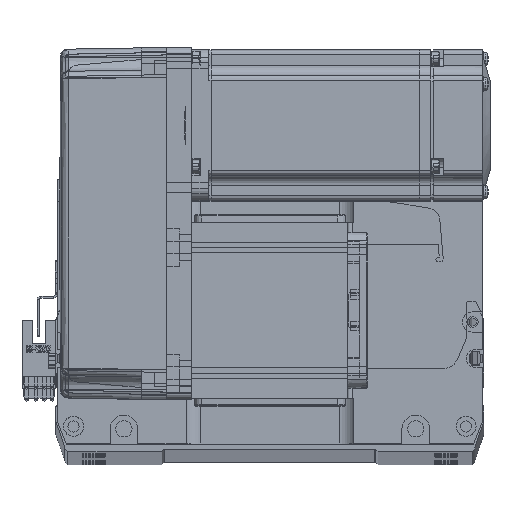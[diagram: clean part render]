
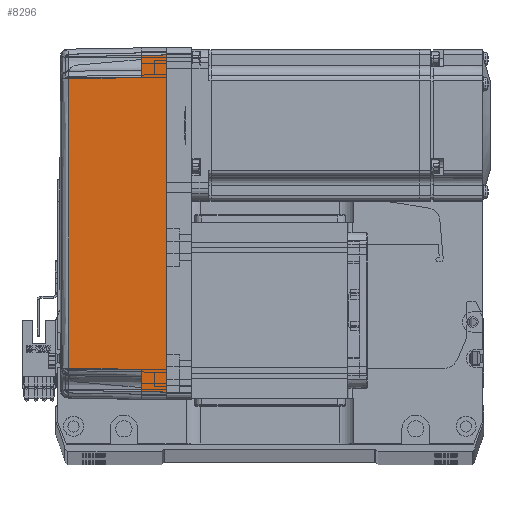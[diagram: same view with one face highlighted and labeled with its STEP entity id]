
A CAD part, top view. The second image highlights one B-rep face of the part: STEP entity #8296.
In plain terms, the highlighted planar face has unit normal (-0.018, 0, 1) as drawn and (0, 1, 0.017) by its records, which use the part's own axes.
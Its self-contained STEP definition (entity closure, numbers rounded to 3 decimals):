
#353 = VECTOR ( 'NONE', #52346, 1000. ) ;
#1189 = VERTEX_POINT ( 'NONE', #12398 ) ;
#3308 = CARTESIAN_POINT ( 'NONE',  ( 67.001, 36.001, -0.052 ) ) ;
#5207 = VERTEX_POINT ( 'NONE', #33978 ) ;
#6202 = LINE ( 'NONE', #37727, #58436 ) ;
#7129 = EDGE_CURVE ( 'NONE', #37167, #44892, #52648, .T. ) ;
#8168 = ORIENTED_EDGE ( 'NONE', *, *, #42075, .T. ) ;
#8296 = ADVANCED_FACE ( 'NONE', ( #18148 ), #31803, .T. ) ;
#11177 = VECTOR ( 'NONE', #70961, 1000. ) ;
#12398 = CARTESIAN_POINT ( 'NONE',  ( -57.495, 35.32, 38.985 ) ) ;
#13283 = VERTEX_POINT ( 'NONE', #52552 ) ;
#13899 = LINE ( 'NONE', #52537, #45568 ) ;
#14903 = ORIENTED_EDGE ( 'NONE', *, *, #34481, .T. ) ;
#15688 = DIRECTION ( 'NONE',  ( 1., 0., 0. ) ) ;
#17793 = EDGE_CURVE ( 'NONE', #30287, #44892, #40867, .T. ) ;
#18148 = FACE_OUTER_BOUND ( 'NONE', #58489, .T. ) ;
#23186 = CARTESIAN_POINT ( 'NONE',  ( -57.495, 35.32, 38.985 ) ) ;
#25027 = EDGE_CURVE ( 'NONE', #5207, #37167, #44555, .T. ) ;
#27513 = B_SPLINE_CURVE_WITH_KNOTS ( 'NONE', 3,
 ( #23186, #55966, #39982, #45950 ),
 .UNSPECIFIED., .F., .F.,
 ( 4, 4 ),
 ( 0., 1. ),
 .UNSPECIFIED. ) ;
#30287 = VERTEX_POINT ( 'NONE', #54873 ) ;
#31551 = CARTESIAN_POINT ( 'NONE',  ( 66.826, 35.825, 10. ) ) ;
#31803 = PLANE ( 'NONE',  #51653 ) ;
#32395 = CARTESIAN_POINT ( 'NONE',  ( -58., 35.825, 10. ) ) ;
#33978 = CARTESIAN_POINT ( 'NONE',  ( -67., 36., 0. ) ) ;
#34481 = EDGE_CURVE ( 'NONE', #5207, #50026, #6202, .T. ) ;
#35630 = VECTOR ( 'NONE', #41850, 1000. ) ;
#36802 = EDGE_CURVE ( 'NONE', #50026, #70374, #68597, .T. ) ;
#37167 = VERTEX_POINT ( 'NONE', #56345 ) ;
#37550 = CARTESIAN_POINT ( 'NONE',  ( 70., 35.825, 10. ) ) ;
#37727 = CARTESIAN_POINT ( 'NONE',  ( -67., 36., 0. ) ) ;
#39982 = CARTESIAN_POINT ( 'NONE',  ( 19.165, 35.316, 39.181 ) ) ;
#40867 = LINE ( 'NONE', #58926, #35630 ) ;
#41162 = VECTOR ( 'NONE', #46091, 1000. ) ;
#41505 = ORIENTED_EDGE ( 'NONE', *, *, #47979, .T. ) ;
#41850 = DIRECTION ( 'NONE',  ( 1., 0., 0. ) ) ;
#42075 = EDGE_CURVE ( 'NONE', #13283, #30287, #45439, .T. ) ;
#42137 = CARTESIAN_POINT ( 'NONE',  ( 70., 36., 0. ) ) ;
#44555 = LINE ( 'NONE', #64931, #11177 ) ;
#44892 = VERTEX_POINT ( 'NONE', #31551 ) ;
#45439 = LINE ( 'NONE', #67767, #41162 ) ;
#45568 = VECTOR ( 'NONE', #52075, 1000. ) ;
#45950 = CARTESIAN_POINT ( 'NONE',  ( 57.495, 35.32, 38.985 ) ) ;
#46091 = DIRECTION ( 'NONE',  ( 0.017, 0.017, -1. ) ) ;
#46186 = ORIENTED_EDGE ( 'NONE', *, *, #17793, .T. ) ;
#47979 = EDGE_CURVE ( 'NONE', #70374, #1189, #13899, .T. ) ;
#49978 = CARTESIAN_POINT ( 'NONE',  ( -66.826, 35.825, 10. ) ) ;
#50026 = VERTEX_POINT ( 'NONE', #49978 ) ;
#51653 = AXIS2_PLACEMENT_3D ( 'NONE', #42137, #58536, #70010 ) ;
#52075 = DIRECTION ( 'NONE',  ( 0.017, -0.017, 1. ) ) ;
#52346 = DIRECTION ( 'NONE',  ( -0.017, -0.017, 1. ) ) ;
#52537 = CARTESIAN_POINT ( 'NONE',  ( -58., 35.825, 10. ) ) ;
#52552 = CARTESIAN_POINT ( 'NONE',  ( 57.495, 35.32, 38.985 ) ) ;
#52648 = LINE ( 'NONE', #3308, #353 ) ;
#54028 = ORIENTED_EDGE ( 'NONE', *, *, #7129, .F. ) ;
#54303 = ORIENTED_EDGE ( 'NONE', *, *, #62449, .T. ) ;
#54873 = CARTESIAN_POINT ( 'NONE',  ( 58., 35.825, 10. ) ) ;
#55966 = CARTESIAN_POINT ( 'NONE',  ( -19.165, 35.316, 39.181 ) ) ;
#56345 = CARTESIAN_POINT ( 'NONE',  ( 67., 36., 0. ) ) ;
#58436 = VECTOR ( 'NONE', #59825, 1000. ) ;
#58489 = EDGE_LOOP ( 'NONE', ( #14903, #68609, #41505, #54303, #8168, #46186, #54028, #64955 ) ) ;
#58536 = DIRECTION ( 'NONE',  ( 0., 1., 0.017 ) ) ;
#58926 = CARTESIAN_POINT ( 'NONE',  ( 70., 35.825, 10. ) ) ;
#59825 = DIRECTION ( 'NONE',  ( 0.017, -0.017, 1. ) ) ;
#62449 = EDGE_CURVE ( 'NONE', #1189, #13283, #27513, .T. ) ;
#64931 = CARTESIAN_POINT ( 'NONE',  ( 0., 36., 0. ) ) ;
#64955 = ORIENTED_EDGE ( 'NONE', *, *, #25027, .F. ) ;
#67679 = VECTOR ( 'NONE', #15688, 1000. ) ;
#67767 = CARTESIAN_POINT ( 'NONE',  ( 57.495, 35.32, 38.985 ) ) ;
#68597 = LINE ( 'NONE', #37550, #67679 ) ;
#68609 = ORIENTED_EDGE ( 'NONE', *, *, #36802, .T. ) ;
#70010 = DIRECTION ( 'NONE',  ( 0., -0.017, 1. ) ) ;
#70374 = VERTEX_POINT ( 'NONE', #32395 ) ;
#70961 = DIRECTION ( 'NONE',  ( 1., 0., 0. ) ) ;
